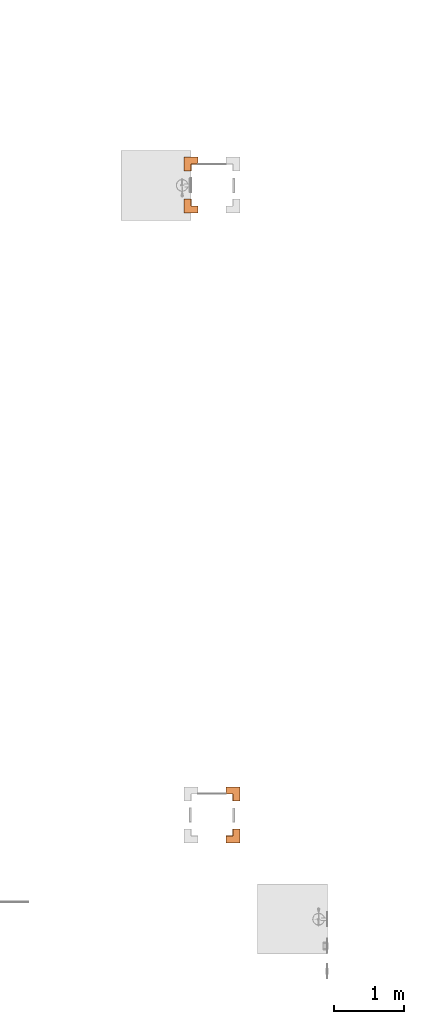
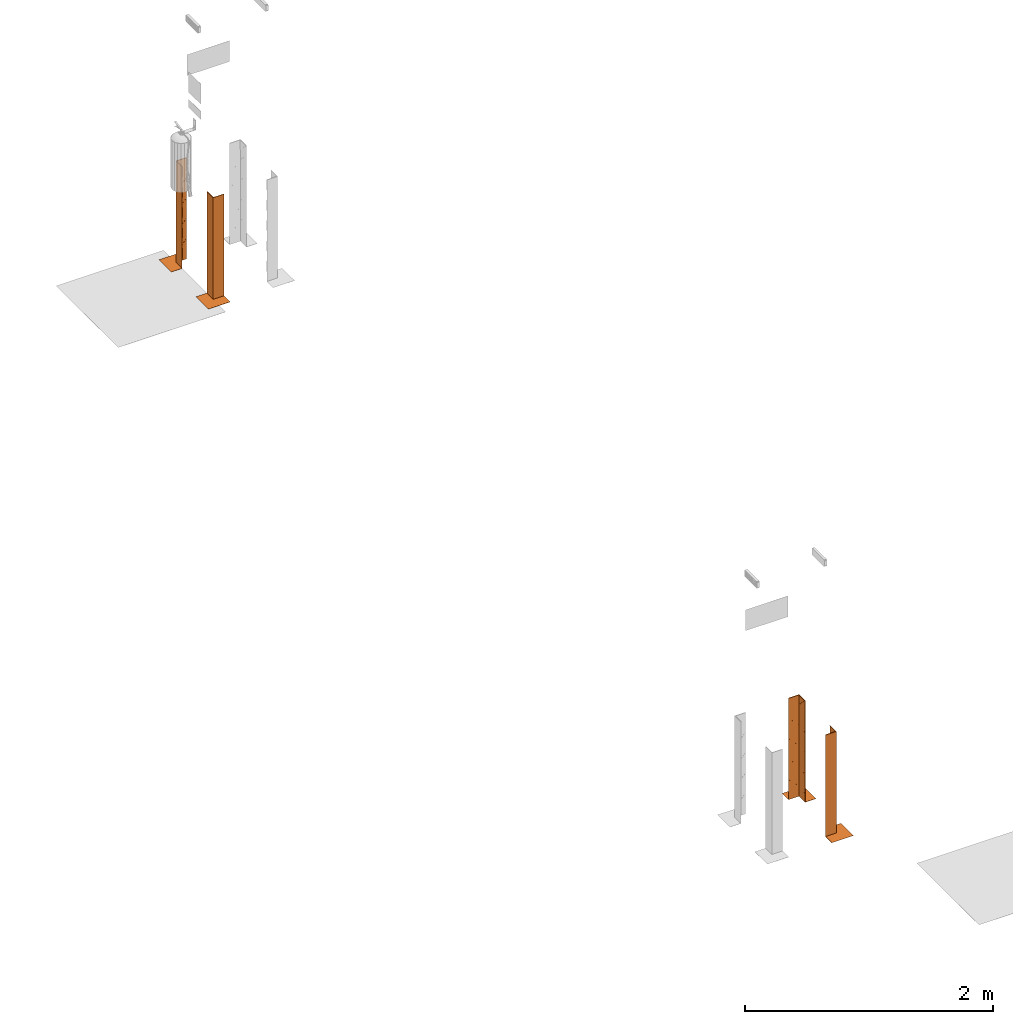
# One storey, part 11 of 119: 4 proxies.
"""IFC2X3 building model written with IfcOpenShell, lengths in metres."""

from ifc_helpers import new_model, entity, si_unit, converted_unit, derived_unit, direction, frame, origin, place, context, subcontext, project, spatial, faceted_brep, source, transform, mapped, material, material_list, type_object, type_shapes, element, save


model = new_model("IFC2X3")

# Units and contexts
model_context = context("Model", 3, precision=1e-05, world=origin(), true_north=direction((6.12303176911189e-17, 1.0)))
body_context = subcontext(model_context, "Body", "Model", "MODEL_VIEW")
ifc_project = project(units=[si_unit("LENGTHUNIT", "METRE"), si_unit("AREAUNIT", "SQUARE_METRE"), si_unit("VOLUMEUNIT", "CUBIC_METRE"), converted_unit("PLANEANGLEUNIT", "DEGREE", entity("IfcRatioMeasure", 0.0174532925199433), si_unit("PLANEANGLEUNIT", "RADIAN"), dimensions=[0, 0, 0, 0, 0, 0, 0]), si_unit("MASSUNIT", "GRAM", prefix="KILO"), derived_unit("MASSDENSITYUNIT", [(si_unit("MASSUNIT", "GRAM", prefix="KILO"), 1), (si_unit("LENGTHUNIT", "METRE"), -3)]), derived_unit("MOMENTOFINERTIAUNIT", [(si_unit("LENGTHUNIT", "METRE"), 4)]), si_unit("TIMEUNIT", "SECOND"), si_unit("FREQUENCYUNIT", "HERTZ"), si_unit("THERMODYNAMICTEMPERATUREUNIT", "DEGREE_CELSIUS"), derived_unit("THERMALTRANSMITTANCEUNIT", [(si_unit("MASSUNIT", "GRAM", prefix="KILO"), 1), (si_unit("THERMODYNAMICTEMPERATUREUNIT", "KELVIN"), -1), (si_unit("TIMEUNIT", "SECOND"), -3)]), derived_unit("VOLUMETRICFLOWRATEUNIT", [(si_unit("LENGTHUNIT", "METRE"), 3), (si_unit("TIMEUNIT", "SECOND"), -1)]), si_unit("ELECTRICCURRENTUNIT", "AMPERE"), si_unit("ELECTRICVOLTAGEUNIT", "VOLT"), si_unit("POWERUNIT", "WATT"), si_unit("FORCEUNIT", "NEWTON", prefix="KILO"), si_unit("ILLUMINANCEUNIT", "LUX"), si_unit("LUMINOUSFLUXUNIT", "LUMEN"), si_unit("LUMINOUSINTENSITYUNIT", "CANDELA"), derived_unit("USERDEFINED", [(si_unit("MASSUNIT", "GRAM", prefix="KILO"), -1), (si_unit("LENGTHUNIT", "METRE"), -2), (si_unit("TIMEUNIT", "SECOND"), 3), (si_unit("LUMINOUSFLUXUNIT", "LUMEN"), 1)]), derived_unit("LINEARVELOCITYUNIT", [(si_unit("LENGTHUNIT", "METRE"), 1), (si_unit("TIMEUNIT", "SECOND"), -1)]), si_unit("PRESSUREUNIT", "PASCAL"), derived_unit("USERDEFINED", [(si_unit("LENGTHUNIT", "METRE"), -2), (si_unit("MASSUNIT", "GRAM", prefix="KILO"), 1), (si_unit("TIMEUNIT", "SECOND"), -2)]), derived_unit("LINEARFORCEUNIT", [(si_unit("MASSUNIT", "GRAM", prefix="KILO"), 1), (si_unit("LENGTHUNIT", "METRE"), 1), (si_unit("TIMEUNIT", "SECOND"), -2), (si_unit("LENGTHUNIT", "METRE"), -1)]), derived_unit("PLANARFORCEUNIT", [(si_unit("MASSUNIT", "GRAM", prefix="KILO"), 1), (si_unit("LENGTHUNIT", "METRE"), 1), (si_unit("TIMEUNIT", "SECOND"), -2), (si_unit("LENGTHUNIT", "METRE"), -2)])], contexts=[model_context])

# Site, building, storey
site_placement = place(None, origin())
site = spatial("IfcSite", under=ifc_project, at=site_placement, Name="Default", CompositionType="ELEMENT")
building_placement = place(site_placement, origin())
building = spatial("IfcBuilding", under=site, at=building_placement, CompositionType="ELEMENT")
storey_placement = place(building_placement, origin())
storey = spatial("IfcBuildingStorey", under=building, at=storey_placement, Name="PAV. 01 - TÉRREO", CompositionType="ELEMENT", Elevation=0.0)

# Proxies
ifc_material_1 = material(Name="Plastico Amarelo")
ifc_material_2 = material(Name="Plastico Preto")
ifc_material_3 = material(Name="O_01_amarelo")
ifc_material_4 = material(Name="O_01_Preto")
ifc_material_list_1 = material_list([ifc_material_1, ifc_material_2, ifc_material_3, ifc_material_4])
ifc_material_list_2 = material_list([ifc_material_3, ifc_material_4, ifc_material_1])
building_element_proxy_type = type_object("IfcBuildingElementProxyType", Name="Indicação de Obstáculos:Indicador - O01 - Amarelo (ambiente interno)", PredefinedType="NOTDEFINED", material=ifc_material_list_2)
shared_shape = source(origin(), body_context, "Body", "Brep", [
    faceted_brep([(0.1, -0.0499999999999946, 0.000999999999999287), (0.0499999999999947, -0.1, 0.000999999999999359), (0.1, -0.1, 0.000999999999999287), (0.1, -0.0499999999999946, 0.0), (0.1, -0.1, 0.0), (0.0499999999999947, -0.1, 0.0)], [[[0, 1, 2]], [[3, 4, 5]], [[0, 2, 4, 3]], [[1, 0, 3, 5]], [[2, 1, 5, 4]]]),
    faceted_brep([(0.100000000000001, 0.0, 0.000999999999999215), (0.0, -0.1, 0.000999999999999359), (0.049999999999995, -0.1, 0.000999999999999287), (0.100000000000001, -0.0499999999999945, 0.000999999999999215), (0.100000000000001, 0.0, 0.0), (0.100000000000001, -0.0499999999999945, 0.0), (0.049999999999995, -0.1, 0.0), (0.0, -0.1, 0.0)], [[[0, 1, 2, 3]], [[4, 5, 6, 7]], [[0, 3, 5, 4]], [[1, 0, 4, 7]], [[3, 2, 6, 5]], [[2, 1, 7, 6]]]),
    faceted_brep([(0.049999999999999, 0.0, 0.000999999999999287), (-0.0500000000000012, -0.0999999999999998, 0.000999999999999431), (0.0, -0.1, 0.000999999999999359), (0.0999999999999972, 0.0, 0.000999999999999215), (0.049999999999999, 0.0, 0.0), (0.0999999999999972, 0.0, 0.0), (0.0, -0.1, 0.0), (-0.0500000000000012, -0.0999999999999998, 0.0)], [[[0, 1, 2, 3]], [[4, 5, 6, 7]], [[1, 0, 4, 7]], [[3, 2, 6, 5]], [[2, 1, 7, 6]], [[0, 3, 5, 4]]]),
    faceted_brep([(-0.0999999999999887, -0.0999999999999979, 0.000999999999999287), (-0.0499999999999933, -0.0999999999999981, 0.000999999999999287), (0.0499999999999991, 0.0, 0.000999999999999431), (0.0, 0.0, 0.000999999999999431), (-0.0999999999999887, -0.0999999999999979, 0.0), (0.0, 0.0, 0.0), (0.049999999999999, 0.0, 0.0), (-0.0499999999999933, -0.0999999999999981, 0.0)], [[[0, 1, 2, 3]], [[4, 5, 6, 7]], [[0, 3, 5, 4]], [[2, 1, 7, 6]], [[3, 2, 6, 5]], [[1, 0, 4, 7]]]),
    faceted_brep([(0.0, 0.0500000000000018, 0.000999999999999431), (-0.0999999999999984, -0.0500000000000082, 0.000999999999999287), (-0.099999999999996, -0.100000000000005, 0.000999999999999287), (0.0, 0.0, 0.000999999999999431), (0.0, 0.0500000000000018, 0.0), (0.0, 0.0, 0.0), (-0.099999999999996, -0.100000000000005, 0.0), (-0.0999999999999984, -0.0500000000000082, 0.0)], [[[0, 1, 2, 3]], [[4, 5, 6, 7]], [[0, 3, 5, 4]], [[1, 0, 4, 7]], [[2, 1, 7, 6]], [[3, 2, 6, 5]]]),
    faceted_brep([(-0.0999999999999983, 0.0499999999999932, 0.000999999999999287), (-0.0499999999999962, 0.1, 0.000999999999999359), (-0.100000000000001, 0.1, 0.000999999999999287), (-0.0999999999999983, 0.0499999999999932, 0.0), (-0.100000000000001, 0.1, 0.0), (-0.0499999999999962, 0.1, 0.0)], [[[0, 1, 2]], [[3, 4, 5]], [[0, 2, 4, 3]], [[1, 0, 3, 5]], [[2, 1, 5, 4]]]),
    faceted_brep([(-0.0999999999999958, 0.0, 0.000999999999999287), (0.0, 0.1, 0.000999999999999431), (-0.0499999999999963, 0.1, 0.000999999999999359), (-0.0999999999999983, 0.0499999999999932, 0.000999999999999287), (-0.0999999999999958, 0.0, 0.0), (-0.0999999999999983, 0.0499999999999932, 0.0), (-0.0499999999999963, 0.1, 0.0), (0.0, 0.1, 0.0)], [[[0, 1, 2, 3]], [[4, 5, 6, 7]], [[0, 3, 5, 4]], [[1, 0, 4, 7]], [[3, 2, 6, 5]], [[2, 1, 7, 6]]]),
    faceted_brep([(0.0, 0.050000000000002, 0.000999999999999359), (0.0, 0.1, 0.000999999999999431), (-0.0999999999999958, 0.0, 0.000999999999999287), (-0.0999999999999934, -0.0500000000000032, 0.000999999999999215), (0.0, 0.0500000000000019, 0.0), (-0.0999999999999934, -0.0500000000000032, 0.0), (-0.0999999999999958, 0.0, 0.0), (0.0, 0.1, 0.0)], [[[0, 1, 2, 3]], [[4, 5, 6, 7]], [[1, 0, 4, 7]], [[2, 1, 7, 6]], [[0, 3, 5, 4]], [[3, 2, 6, 5]]]),
    faceted_brep([(0.00200000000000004, 0.1, 1.0), (0.002, 0.00199999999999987, 0.902000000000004), (0.002, 0.00199999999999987, 0.802000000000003), (0.00200000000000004, 0.1, 0.900000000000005), (0.0, 0.1, 0.900000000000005), (0.0, 0.0, 0.800000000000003), (0.0, 0.0, 0.900000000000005), (0.0, 0.1, 1.0)], [[[0, 1, 2, 3]], [[4, 5, 6, 7]], [[4, 3, 2, 5]], [[1, 6, 5, 2]], [[6, 1, 0, 7]], [[3, 4, 7, 0]]]),
    faceted_brep([(0.00200000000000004, 0.1, 0.800000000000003), (0.002, 0.00199999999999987, 0.702000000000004), (0.002, 0.00199999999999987, 0.602000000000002), (0.00200000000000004, 0.1, 0.700000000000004), (0.0, 0.1, 0.700000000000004), (0.0, 0.0, 0.600000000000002), (0.0, 0.0, 0.700000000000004), (0.0, 0.1, 0.800000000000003)], [[[0, 1, 2, 3]], [[4, 5, 6, 7]], [[4, 3, 2, 5]], [[1, 6, 5, 2]], [[6, 1, 0, 7]], [[3, 4, 7, 0]]]),
    faceted_brep([(0.00200000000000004, 0.1, 0.600000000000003), (0.002, 0.00199999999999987, 0.502000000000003), (0.002, 0.00199999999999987, 0.402000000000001), (0.00200000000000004, 0.1, 0.500000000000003), (0.0, 0.1, 0.500000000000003), (0.0, 0.0, 0.400000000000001), (0.0, 0.0, 0.500000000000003), (0.0, 0.1, 0.600000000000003)], [[[0, 1, 2, 3]], [[4, 5, 6, 7]], [[4, 3, 2, 5]], [[1, 6, 5, 2]], [[6, 1, 0, 7]], [[3, 4, 7, 0]]]),
    faceted_brep([(0.00200000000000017, 0.0999999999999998, 0.400000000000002), (0.00200000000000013, 0.0019999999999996, 0.302000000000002), (0.00200000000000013, 0.0019999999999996, 0.202), (0.00200000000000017, 0.0999999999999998, 0.300000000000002), (0.0, 0.0999999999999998, 0.300000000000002), (0.0, 0.0, 0.2), (0.0, 0.0, 0.300000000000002), (0.0, 0.0999999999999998, 0.400000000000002)], [[[0, 1, 2, 3]], [[4, 5, 6, 7]], [[4, 3, 2, 5]], [[1, 6, 5, 2]], [[6, 1, 0, 7]], [[3, 4, 7, 0]]]),
    faceted_brep([(0.000500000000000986, 0.1, 0.900000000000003), (0.000500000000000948, 0.000499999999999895, 0.800500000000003), (0.000500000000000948, 0.00049999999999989, 0.700500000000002), (0.000500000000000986, 0.1, 0.800000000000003), (0.0, 0.1, 0.800000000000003), (0.0, 0.0, 0.700000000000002), (0.0, 0.0, 0.800000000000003), (0.0, 0.1, 0.900000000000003)], [[[0, 1, 2, 3]], [[4, 5, 6, 7]], [[4, 3, 2, 5]], [[1, 6, 5, 2]], [[6, 1, 0, 7]], [[3, 4, 7, 0]]]),
    faceted_brep([(0.000500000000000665, 0.1, 0.700000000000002), (0.000500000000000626, 0.000499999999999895, 0.600500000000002), (0.000500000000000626, 0.00049999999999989, 0.500500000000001), (0.000500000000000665, 0.1, 0.600000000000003), (0.0, 0.1, 0.600000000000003), (0.0, 0.0, 0.500000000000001), (0.0, 0.0, 0.600000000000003), (0.0, 0.1, 0.700000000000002)], [[[0, 1, 2, 3]], [[4, 5, 6, 7]], [[4, 3, 2, 5]], [[1, 6, 5, 2]], [[6, 1, 0, 7]], [[3, 4, 7, 0]]]),
    faceted_brep([(0.000500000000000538, 0.0999999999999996, 0.500000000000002), (0.000500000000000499, 0.000499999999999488, 0.400500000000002), (0.000500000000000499, 0.000499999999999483, 0.3005), (0.000500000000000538, 0.0999999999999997, 0.400000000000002), (0.0, 0.0999999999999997, 0.400000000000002), (0.0, 0.0, 0.3), (0.0, 0.0, 0.400000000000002), (0.0, 0.0999999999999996, 0.500000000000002)], [[[0, 1, 2, 3]], [[4, 5, 6, 7]], [[4, 3, 2, 5]], [[1, 6, 5, 2]], [[6, 1, 0, 7]], [[3, 4, 7, 0]]]),
    faceted_brep([(0.00499999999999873, 0.00499999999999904, 1.0), (0.00499999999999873, 0.00499999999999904, 0.904999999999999), (0.00499999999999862, 0.0999999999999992, 1.0), (0.0, 0.0, 0.899999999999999), (0.0, 0.0, 1.0), (0.0, 0.0999999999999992, 1.0)], [[[0, 1, 2]], [[3, 4, 5]], [[4, 0, 2, 5]], [[5, 2, 1, 3]], [[0, 4, 3, 1]]]),
    faceted_brep([(0.00499999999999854, 0.00499999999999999, 1.0), (0.0999999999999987, 0.00499999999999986, 1.0), (0.00499999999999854, 0.00499999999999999, 0.904999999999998), (0.0, 0.0, 0.899999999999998), (0.0999999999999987, 0.0, 1.0), (0.0, 0.0, 1.0)], [[[0, 1, 2]], [[3, 4, 5]], [[5, 4, 1, 0]], [[4, 3, 2, 1]], [[0, 2, 3, 5]]]),
    faceted_brep([(0.0999999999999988, 0.000499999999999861, 0.900000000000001), (0.0999999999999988, 0.000499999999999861, 0.800000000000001), (0.000499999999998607, 0.000499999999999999, 0.7005), (0.000499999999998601, 0.000499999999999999, 0.800500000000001), (0.0999999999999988, 0.0, 0.800000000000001), (0.0999999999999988, 0.0, 0.900000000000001), (0.0, 0.0, 0.800000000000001), (0.0, 0.0, 0.7)], [[[0, 1, 2, 3]], [[4, 5, 6, 7]], [[4, 7, 2, 1]], [[3, 2, 7, 6]], [[6, 5, 0, 3]], [[1, 0, 5, 4]]]),
    faceted_brep([(0.0999999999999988, 0.000499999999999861, 0.700000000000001), (0.0999999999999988, 0.000499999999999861, 0.600000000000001), (0.000499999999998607, 0.000499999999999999, 0.5005), (0.000499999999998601, 0.000499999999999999, 0.600500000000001), (0.0999999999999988, 0.0, 0.600000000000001), (0.0999999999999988, 0.0, 0.700000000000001), (0.0, 0.0, 0.600000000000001), (0.0, 0.0, 0.5)], [[[0, 1, 2, 3]], [[4, 5, 6, 7]], [[4, 7, 2, 1]], [[3, 2, 7, 6]], [[6, 5, 0, 3]], [[1, 0, 5, 4]]]),
    faceted_brep([(0.0999999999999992, 0.000499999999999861, 0.500000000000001), (0.0999999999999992, 0.000499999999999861, 0.400000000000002), (0.000499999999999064, 0.000499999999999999, 0.3005), (0.000499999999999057, 0.000499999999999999, 0.400500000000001), (0.0999999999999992, 0.0, 0.400000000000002), (0.0999999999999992, 0.0, 0.500000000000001), (0.0, 0.0, 0.400000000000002), (0.0, 0.0, 0.3)], [[[0, 1, 2, 3]], [[4, 5, 6, 7]], [[4, 7, 2, 1]], [[3, 2, 7, 6]], [[6, 5, 0, 3]], [[1, 0, 5, 4]]]),
    faceted_brep([(0.0999999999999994, 0.00199999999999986, 1.0), (0.0999999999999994, 0.00199999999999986, 0.900000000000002), (0.00199999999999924, 0.002, 0.802), (0.00199999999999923, 0.002, 0.902000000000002), (0.0999999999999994, 0.0, 0.900000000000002), (0.0999999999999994, 0.0, 1.0), (0.0, 0.0, 0.900000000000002), (0.0, 0.0, 0.8)], [[[0, 1, 2, 3]], [[4, 5, 6, 7]], [[4, 7, 2, 1]], [[3, 2, 7, 6]], [[6, 5, 0, 3]], [[1, 0, 5, 4]]]),
    faceted_brep([(0.0999999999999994, 0.00199999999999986, 0.800000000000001), (0.0999999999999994, 0.00199999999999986, 0.700000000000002), (0.00199999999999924, 0.002, 0.602), (0.00199999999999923, 0.002, 0.702000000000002), (0.0999999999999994, 0.0, 0.700000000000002), (0.0999999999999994, 0.0, 0.800000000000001), (0.0, 0.0, 0.700000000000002), (0.0, 0.0, 0.6)], [[[0, 1, 2, 3]], [[4, 5, 6, 7]], [[4, 7, 2, 1]], [[3, 2, 7, 6]], [[6, 5, 0, 3]], [[1, 0, 5, 4]]]),
    faceted_brep([(0.0999999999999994, 0.00199999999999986, 0.600000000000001), (0.0999999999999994, 0.00199999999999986, 0.500000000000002), (0.00199999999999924, 0.002, 0.402), (0.00199999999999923, 0.002, 0.502000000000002), (0.0999999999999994, 0.0, 0.500000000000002), (0.0999999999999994, 0.0, 0.600000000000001), (0.0, 0.0, 0.500000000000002), (0.0, 0.0, 0.4)], [[[0, 1, 2, 3]], [[4, 5, 6, 7]], [[4, 7, 2, 1]], [[3, 2, 7, 6]], [[6, 5, 0, 3]], [[1, 0, 5, 4]]]),
    faceted_brep([(0.0999999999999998, 0.00199999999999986, 0.400000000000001), (0.0999999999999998, 0.00199999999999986, 0.300000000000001), (0.00199999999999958, 0.002, 0.202), (0.00199999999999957, 0.002, 0.302000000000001), (0.0999999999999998, 0.0, 0.300000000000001), (0.0999999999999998, 0.0, 0.400000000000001), (0.0, 0.0, 0.300000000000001), (0.0, 0.0, 0.2)], [[[0, 1, 2, 3]], [[4, 5, 6, 7]], [[4, 7, 2, 1]], [[3, 2, 7, 6]], [[6, 5, 0, 3]], [[1, 0, 5, 4]]]),
    faceted_brep([(0.000500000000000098, 0.1, 0.300000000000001), (0.000500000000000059, 0.000499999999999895, 0.200500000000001), (0.000500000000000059, 0.00049999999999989, 0.1005), (0.000500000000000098, 0.1, 0.200000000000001), (0.0, 0.1, 0.200000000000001), (0.0, 0.0, 0.0999999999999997), (0.0, 0.0, 0.200000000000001), (0.0, 0.1, 0.300000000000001)], [[[0, 1, 2, 3]], [[4, 5, 6, 7]], [[4, 3, 2, 5]], [[1, 6, 5, 2]], [[6, 1, 0, 7]], [[3, 4, 7, 0]]]),
    faceted_brep([(0.00200000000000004, 0.1, 0.200000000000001), (0.002, 0.00199999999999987, 0.102000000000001), (0.002, 0.00199999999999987, 0.00199999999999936), (0.00200000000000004, 0.1, 0.100000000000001), (0.0, 0.1, 0.100000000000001), (0.0, 0.0, 0.0), (0.0, 0.0, 0.100000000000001), (0.0, 0.1, 0.200000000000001)], [[[0, 1, 2, 3]], [[4, 5, 6, 7]], [[4, 3, 2, 5]], [[1, 6, 5, 2]], [[6, 1, 0, 7]], [[3, 4, 7, 0]]]),
    faceted_brep([(0.000500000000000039, 0.1, 0.100000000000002), (0.0005, 0.000499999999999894, 0.000499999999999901), (0.0005, 0.000499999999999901, 0.0), (0.000500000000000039, 0.1, 0.0), (0.0, 0.0, 0.0), (0.0, 0.1, 0.100000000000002), (0.0, 0.1, 0.0)], [[[0, 1, 2, 3]], [[4, 5, 6]], [[3, 6, 5, 0]], [[6, 3, 2, 4]], [[4, 1, 0, 5]], [[1, 4, 2]]]),
    faceted_brep([(0.0999999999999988, 0.000499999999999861, 0.300000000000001), (0.0999999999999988, 0.000499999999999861, 0.200000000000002), (0.000499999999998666, 0.000499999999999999, 0.1005), (0.00049999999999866, 0.000499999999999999, 0.200500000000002), (0.0999999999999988, 0.0, 0.200000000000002), (0.0999999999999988, 0.0, 0.300000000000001), (0.0, 0.0, 0.200000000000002), (0.0, 0.0, 0.1)], [[[0, 1, 2, 3]], [[4, 5, 6, 7]], [[4, 7, 2, 1]], [[3, 2, 7, 6]], [[6, 5, 0, 3]], [[1, 0, 5, 4]]]),
    faceted_brep([(0.0999999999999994, 0.00199999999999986, 0.200000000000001), (0.0999999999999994, 0.00199999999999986, 0.100000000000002), (0.00199999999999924, 0.002, 0.0019999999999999), (0.00199999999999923, 0.002, 0.102000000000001), (0.0999999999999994, 0.0, 0.100000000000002), (0.0999999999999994, 0.0, 0.200000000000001), (0.0, 0.0, 0.100000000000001), (0.0, 0.0, 0.0)], [[[0, 1, 2, 3]], [[4, 5, 6, 7]], [[4, 7, 2, 1]], [[3, 2, 7, 6]], [[6, 5, 0, 3]], [[1, 0, 5, 4]]]),
    faceted_brep([(0.1, 0.000499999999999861, 0.100000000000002), (0.1, 0.000499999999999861, 0.0), (0.000499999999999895, 0.000499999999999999, 0.0), (0.000499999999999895, 0.000499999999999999, 0.000499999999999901), (0.0, 0.0, 0.0), (0.1, 0.0, 0.0), (0.1, 0.0, 0.100000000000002)], [[[0, 1, 2, 3]], [[4, 5, 6]], [[1, 0, 6, 5]], [[5, 4, 2, 1]], [[4, 6, 0, 3]], [[3, 2, 4]]]),
])
type_shapes(building_element_proxy_type, [shared_shape])
proxy_1_placement = place(storey_placement, frame((46.3738248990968, 22.6286563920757, 0.0)))
element("IfcBuildingElementProxy", 1, at=proxy_1_placement, inside=storey, type_object=building_element_proxy_type, material=ifc_material_list_1, Name="Indicação de Obstáculos:Indicador - O01 - Amarelo (ambiente interno)", ObjectType="Indicação de Obstáculos:Indicador - O01 - Amarelo (ambiente interno)", context=body_context, shape_type="MappedRepresentation", body=[
    mapped(shared_shape, transform((0.0, 0.0, 0.0), scale=1.0)),
])
ifc_material_list_3 = material_list([ifc_material_1, ifc_material_2, ifc_material_3, ifc_material_4])
proxy_2_placement = place(storey_placement, frame((46.3738248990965, 23.2286556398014, 0.0), z_axis=(0.0, 0.0, 1.0), x_axis=(0.0, -1.0, 0.0)))
element("IfcBuildingElementProxy", 2, at=proxy_2_placement, inside=storey, type_object=building_element_proxy_type, material=ifc_material_list_3, Name="Indicação de Obstáculos:Indicador - O01 - Amarelo (ambiente interno)", ObjectType="Indicação de Obstáculos:Indicador - O01 - Amarelo (ambiente interno)", context=body_context, shape_type="MappedRepresentation", body=[
    mapped(shared_shape, transform((0.0, 0.0, 0.0), scale=1.0)),
])
ifc_material_list_4 = material_list([ifc_material_1, ifc_material_2, ifc_material_3, ifc_material_4])
proxy_3_placement = place(storey_placement, frame((46.9738241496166, 13.6286676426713, 0.0), z_axis=(0.0, 0.0, 1.0), x_axis=(0.0, 1.0, 0.0)))
element("IfcBuildingElementProxy", 3, at=proxy_3_placement, inside=storey, type_object=building_element_proxy_type, material=ifc_material_list_4, Name="Indicação de Obstáculos:Indicador - O01 - Amarelo (ambiente interno)", ObjectType="Indicação de Obstáculos:Indicador - O01 - Amarelo (ambiente interno)", context=body_context, shape_type="MappedRepresentation", body=[
    mapped(shared_shape, transform((0.0, 0.0, 0.0), scale=1.0)),
])
ifc_material_list_5 = material_list([ifc_material_1, ifc_material_2, ifc_material_3, ifc_material_4])
proxy_4_placement = place(storey_placement, frame((46.9738241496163, 14.2286668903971, 0.0), z_axis=(0.0, 0.0, 1.0), x_axis=(-1.0, 0.0, 0.0)))
element("IfcBuildingElementProxy", 4, at=proxy_4_placement, inside=storey, type_object=building_element_proxy_type, material=ifc_material_list_5, Name="Indicação de Obstáculos:Indicador - O01 - Amarelo (ambiente interno)", ObjectType="Indicação de Obstáculos:Indicador - O01 - Amarelo (ambiente interno)", context=body_context, shape_type="MappedRepresentation", body=[
    mapped(shared_shape, transform((0.0, 0.0, 0.0), scale=1.0)),
])

save(model, "model.ifc")
